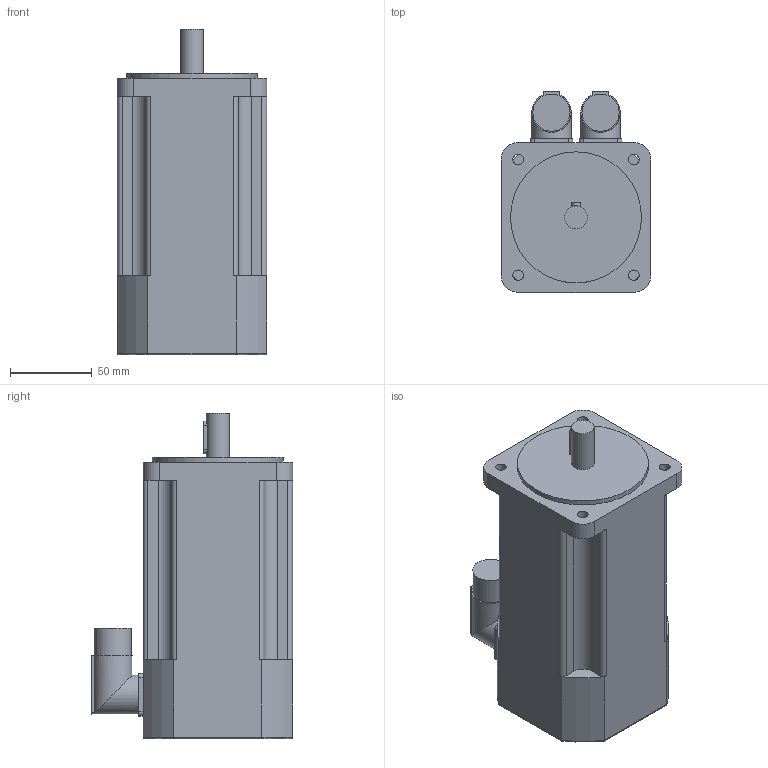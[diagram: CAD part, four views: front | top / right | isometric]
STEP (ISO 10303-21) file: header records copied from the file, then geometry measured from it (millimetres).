
FILE_DESCRIPTION(/* description */ (''),/* implementation_level */ '2;1');
FILE_NAME(/* name */ '\\Lafnas01\disegni\Archivi Lafert\3D\CAD 3D\MODELLI\Assiemi clienti\Serad\Modelli 3D Serad\B56Q\Encoder\Enc Without Brake\B56G5Qxx6ARx2033.ipt.stp',/* time_stamp */ '2015-09-07T10:50:14+02:00',/* author */ ('Pastrello Ylenia'),/* organization */ (''),/* preprocessor_version */ 'ST-DEVELOPER v15.6',/* originating_system */ 'Autodesk Inventor 2015',/* authorisation */ '');
FILE_SCHEMA (('AUTOMOTIVE_DESIGN { 1 0 10303 214 3 1 1 }'));
Length unit declared in the file: millimetre
Products named in the file (1): B56G5Qxx6ARx2033
Bounding box: 91.3 x 122.8 x 199 mm (x, y, z)
Volume: 1320560.6 mm3; surface area: 86273.2 mm2
Topology: 1 solids, 1 shells, 99 faces, 260 edges, 170 vertices
Faces by surface type: plane 49, cylinder 46, torus 4
Full cylindrical faces by diameter (mm): 6.5 x4, 14 x1, 22.7 x2, 24 x2, 80 x1
Entity records: 3176 total; most frequent: CARTESIAN_POINT 658, DIRECTION 534, ORIENTED_EDGE 500, EDGE_CURVE 250, AXIS2_PLACEMENT_3D 194, VERTEX_POINT 170, LINE 146, VECTOR 146
